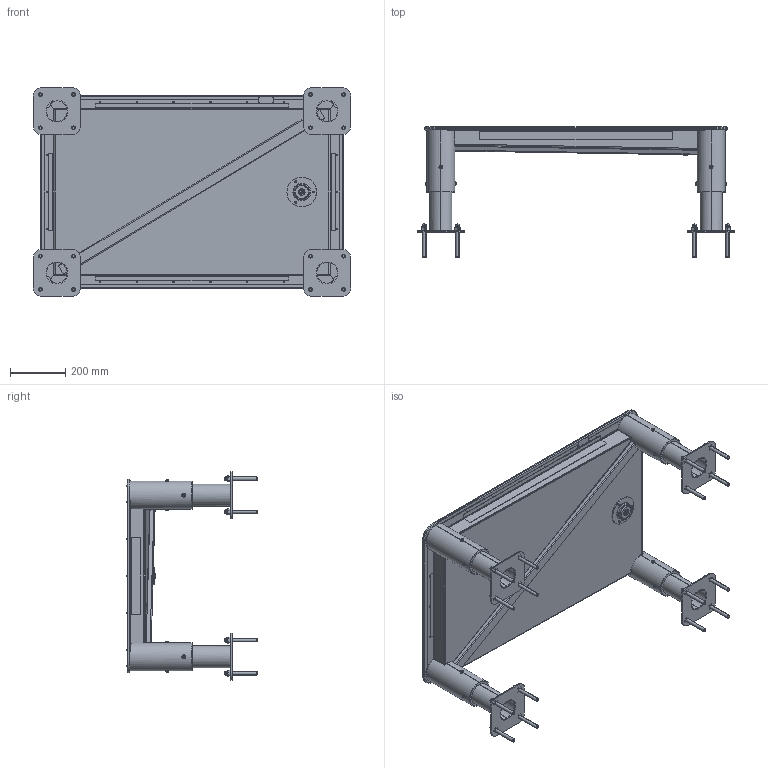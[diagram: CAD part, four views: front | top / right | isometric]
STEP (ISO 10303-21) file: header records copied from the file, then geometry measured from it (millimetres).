
FILE_DESCRIPTION (( 'STEP AP214' ), '1' );
FILE_NAME ('570.202.020.011 - Mud pool 38cm FA.STEP', '2021-03-25T08:21:11', ( '' ), ( '' ), 'SwSTEP 2.0', 'SolidWorks 2018', '' );
FILE_SCHEMA (( 'AUTOMOTIVE_DESIGN' ));
Length unit declared in the file: millimetre
Products named in the file (1): 570.202.020.011 - Mud pool 38cm FA
Bounding box: 1148 x 472.1 x 755 mm (x, y, z)
Surface area: 3536865.8 mm2 (no closed solid volume)
Topology: 0 solids, 197 shells, 1217 faces, 4000 edges, 2747 vertices
Faces by surface type: cylinder 392, plane 390, cone 133, bspline 124, torus 111, sphere 67
Entity records: 63805 total; most frequent: CARTESIAN_POINT 17026, DIRECTION 7291, ORIENTED_EDGE 5956, EDGE_CURVE 3943, AXIS2_PLACEMENT_3D 2920, VERTEX_POINT 2747, CIRCLE 1826, LINE 1451
